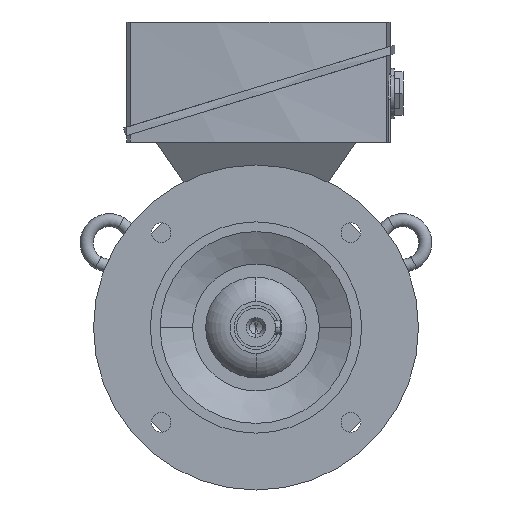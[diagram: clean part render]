
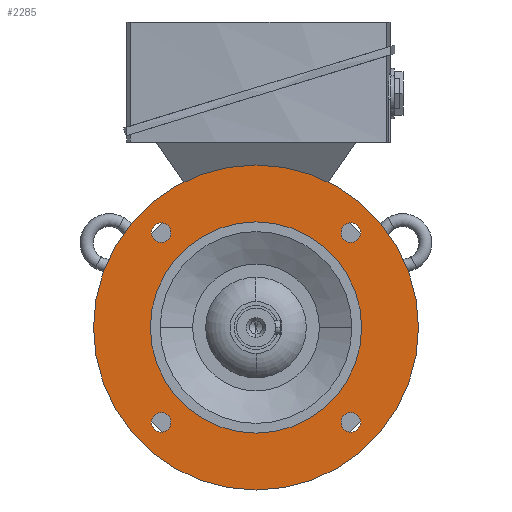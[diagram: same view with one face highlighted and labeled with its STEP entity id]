
A CAD part, left-side view. The second image highlights one B-rep face of the part: STEP entity #2285.
In plain terms, the highlighted planar face has unit normal (-1, 0, 0).
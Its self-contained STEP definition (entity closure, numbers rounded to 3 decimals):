
#2285=ADVANCED_FACE('',(#4627,#4628,#4629,#4630,#4631,#4632),#4633,.T.);
#4627=FACE_BOUND('',#6973,.T.);
#4628=FACE_BOUND('',#6974,.T.);
#4629=FACE_BOUND('',#6975,.T.);
#4630=FACE_BOUND('',#6976,.T.);
#4631=FACE_OUTER_BOUND('',#6977,.T.);
#4632=FACE_BOUND('',#6978,.T.);
#4633=PLANE('',#6979);
#6973=EDGE_LOOP('',(#14191,#14192));
#6974=EDGE_LOOP('',(#14193,#14194));
#6975=EDGE_LOOP('',(#14195,#14196));
#6976=EDGE_LOOP('',(#14197,#14198));
#6977=EDGE_LOOP('',(#14199,#14200));
#6978=EDGE_LOOP('',(#14201,#14202));
#6979=AXIS2_PLACEMENT_3D('',#14203,#14204,#14205);
#14191=ORIENTED_EDGE('',*,*,#17060,.T.);
#14192=ORIENTED_EDGE('',*,*,#14330,.T.);
#14193=ORIENTED_EDGE('',*,*,#17063,.T.);
#14194=ORIENTED_EDGE('',*,*,#14325,.T.);
#14195=ORIENTED_EDGE('',*,*,#17066,.T.);
#14196=ORIENTED_EDGE('',*,*,#14320,.T.);
#14197=ORIENTED_EDGE('',*,*,#17069,.T.);
#14198=ORIENTED_EDGE('',*,*,#14315,.T.);
#14199=ORIENTED_EDGE('',*,*,#14299,.F.);
#14200=ORIENTED_EDGE('',*,*,#17113,.F.);
#14201=ORIENTED_EDGE('',*,*,#14306,.T.);
#14202=ORIENTED_EDGE('',*,*,#17111,.T.);
#14203=CARTESIAN_POINT('',(-34.5,82.5,0.0));
#14204=DIRECTION('',(-1.0,0.0,0.0));
#14205=DIRECTION('',(0.0,-1.0,0.0));
#14299=EDGE_CURVE('',#17194,#17197,#17198,.T.);
#14306=EDGE_CURVE('',#17204,#17208,#17210,.T.);
#14315=EDGE_CURVE('',#17226,#17223,#17227,.T.);
#14320=EDGE_CURVE('',#17235,#17232,#17236,.T.);
#14325=EDGE_CURVE('',#17244,#17241,#17245,.T.);
#14330=EDGE_CURVE('',#17253,#17250,#17254,.T.);
#17060=EDGE_CURVE('',#17250,#17253,#21308,.T.);
#17063=EDGE_CURVE('',#17241,#17244,#21311,.T.);
#17066=EDGE_CURVE('',#17232,#17235,#21314,.T.);
#17069=EDGE_CURVE('',#17223,#17226,#21317,.T.);
#17111=EDGE_CURVE('',#17208,#17204,#21370,.T.);
#17113=EDGE_CURVE('',#17197,#17194,#21372,.T.);
#17194=VERTEX_POINT('',#21635);
#17197=VERTEX_POINT('',#21639);
#17198=CIRCLE('',#21640,100.0);
#17204=VERTEX_POINT('',#21647);
#17208=VERTEX_POINT('',#21652);
#17210=CIRCLE('',#21655,65.0);
#17223=VERTEX_POINT('',#21673);
#17226=VERTEX_POINT('',#21677);
#17227=CIRCLE('',#21678,6.0);
#17232=VERTEX_POINT('',#21684);
#17235=VERTEX_POINT('',#21688);
#17236=CIRCLE('',#21689,6.0);
#17241=VERTEX_POINT('',#21695);
#17244=VERTEX_POINT('',#21699);
#17245=CIRCLE('',#21700,6.0);
#17250=VERTEX_POINT('',#21706);
#17253=VERTEX_POINT('',#21710);
#17254=CIRCLE('',#21711,6.0);
#21308=CIRCLE('',#28863,6.0);
#21311=CIRCLE('',#28866,6.0);
#21314=CIRCLE('',#28869,6.0);
#21317=CIRCLE('',#28872,6.0);
#21370=CIRCLE('',#28965,65.0);
#21372=CIRCLE('',#28967,100.0);
#21635=CARTESIAN_POINT('',(-34.5,100.0,0.0));
#21639=CARTESIAN_POINT('',(-34.5,-100.0,0.));
#21640=AXIS2_PLACEMENT_3D('',#29053,#29054,#29055);
#21647=CARTESIAN_POINT('',(-34.5,65.0,0.0));
#21652=CARTESIAN_POINT('',(-34.5,-65.0,0.));
#21655=AXIS2_PLACEMENT_3D('',#29065,#29066,#29067);
#21673=CARTESIAN_POINT('',(-34.5,-62.579,62.579));
#21677=CARTESIAN_POINT('',(-34.5,-54.094,54.094));
#21678=AXIS2_PLACEMENT_3D('',#29081,#29082,#29083);
#21684=CARTESIAN_POINT('',(-34.5,62.579,62.579));
#21688=CARTESIAN_POINT('',(-34.5,54.094,54.094));
#21689=AXIS2_PLACEMENT_3D('',#29089,#29090,#29091);
#21695=CARTESIAN_POINT('',(-34.5,62.579,-62.579));
#21699=CARTESIAN_POINT('',(-34.5,54.094,-54.094));
#21700=AXIS2_PLACEMENT_3D('',#29097,#29098,#29099);
#21706=CARTESIAN_POINT('',(-34.5,-62.579,-62.579));
#21710=CARTESIAN_POINT('',(-34.5,-54.094,-54.094));
#21711=AXIS2_PLACEMENT_3D('',#29105,#29106,#29107);
#28863=AXIS2_PLACEMENT_3D('',#32171,#32172,#32173);
#28866=AXIS2_PLACEMENT_3D('',#32177,#32178,#32179);
#28869=AXIS2_PLACEMENT_3D('',#32183,#32184,#32185);
#28872=AXIS2_PLACEMENT_3D('',#32189,#32190,#32191);
#28965=AXIS2_PLACEMENT_3D('',#32225,#32226,#32227);
#28967=AXIS2_PLACEMENT_3D('',#32228,#32229,#32230);
#29053=CARTESIAN_POINT('',(-34.5,0.0,0.0));
#29054=DIRECTION('',(1.0,0.0,0.0));
#29055=DIRECTION('',(0.0,1.0,0.0));
#29065=CARTESIAN_POINT('',(-34.5,0.0,0.0));
#29066=DIRECTION('',(1.0,0.0,0.0));
#29067=DIRECTION('',(0.0,1.0,0.0));
#29081=CARTESIAN_POINT('',(-34.5,-58.336,58.336));
#29082=DIRECTION('',(1.0,0.0,-0.0));
#29083=DIRECTION('',(0.0,-0.707,0.707));
#29089=CARTESIAN_POINT('',(-34.5,58.336,58.336));
#29090=DIRECTION('',(1.0,0.0,-0.0));
#29091=DIRECTION('',(0.0,0.707,0.707));
#29097=CARTESIAN_POINT('',(-34.5,58.336,-58.336));
#29098=DIRECTION('',(1.0,-0.0,0.0));
#29099=DIRECTION('',(0.0,0.707,-0.707));
#29105=CARTESIAN_POINT('',(-34.5,-58.336,-58.336));
#29106=DIRECTION('',(1.0,0.0,0.0));
#29107=DIRECTION('',(0.0,-0.707,-0.707));
#32171=CARTESIAN_POINT('',(-34.5,-58.336,-58.336));
#32172=DIRECTION('',(1.0,0.0,0.0));
#32173=DIRECTION('',(0.0,-0.707,-0.707));
#32177=CARTESIAN_POINT('',(-34.5,58.336,-58.336));
#32178=DIRECTION('',(1.0,-0.0,0.0));
#32179=DIRECTION('',(0.0,0.707,-0.707));
#32183=CARTESIAN_POINT('',(-34.5,58.336,58.336));
#32184=DIRECTION('',(1.0,0.0,-0.0));
#32185=DIRECTION('',(0.0,0.707,0.707));
#32189=CARTESIAN_POINT('',(-34.5,-58.336,58.336));
#32190=DIRECTION('',(1.0,0.0,-0.0));
#32191=DIRECTION('',(0.0,-0.707,0.707));
#32225=CARTESIAN_POINT('',(-34.5,0.0,0.0));
#32226=DIRECTION('',(1.0,0.0,0.0));
#32227=DIRECTION('',(0.0,1.0,0.0));
#32228=CARTESIAN_POINT('',(-34.5,0.0,0.0));
#32229=DIRECTION('',(1.0,0.0,0.0));
#32230=DIRECTION('',(0.0,1.0,0.0));
